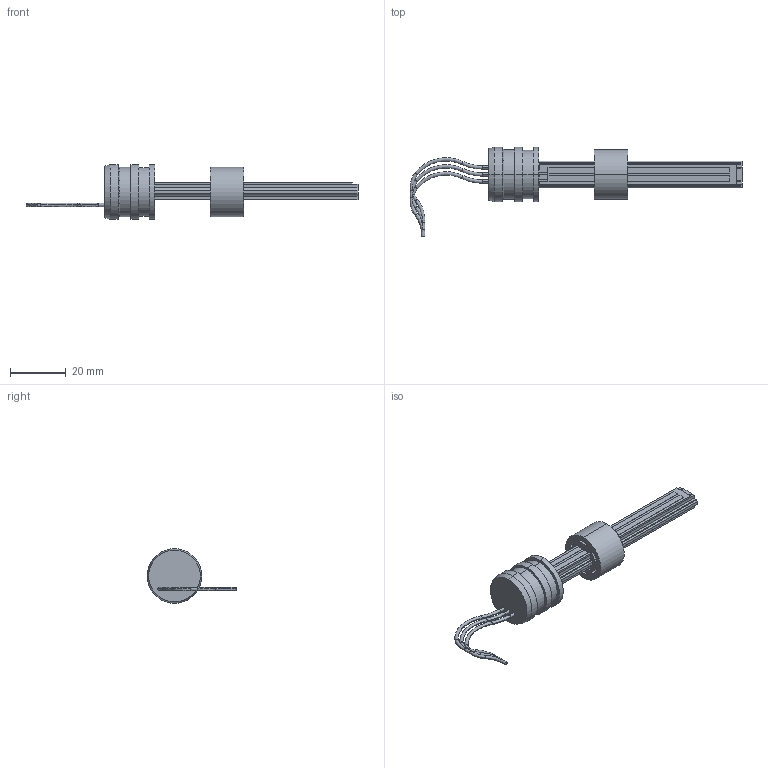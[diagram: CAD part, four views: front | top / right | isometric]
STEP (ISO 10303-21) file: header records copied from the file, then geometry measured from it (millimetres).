
FILE_DESCRIPTION (( 'STEP AP203' ), '1' );
FILE_NAME ('PS6501-regal.step', '2009-04-08T07:03:27', ( 'Gustaf Hederström' ), ( 'Cevican AB' ), 'SwSTEP 2.0', 'SolidWorks 2002308', '' );
FILE_SCHEMA (( 'CONFIG_CONTROL_DESIGN' ));
Length unit declared in the file: millimetre
Products named in the file (3): PS6501-regal; 30-0027_SW0001_6501; WIPER6500
Assembly tree (2 placements, depth 2):
  PS6501-regal
    30-0027_SW0001_6501
    WIPER6500
Bounding box: 119.62 x 32.31 x 19.7 mm (x, y, z)
Volume: 10575.5 mm3; surface area: 7003.9 mm2
Topology: 2 solids, 3 shells, 207 faces, 560 edges, 359 vertices
Faces by surface type: plane 92, cylinder 76, bspline 35, cone 4
Entity records: 8097 total; most frequent: CARTESIAN_POINT 2581, ORIENTED_EDGE 1120, DIRECTION 1082, EDGE_CURVE 560, AXIS2_PLACEMENT_3D 387, VERTEX_POINT 359, LINE 308, VECTOR 308
